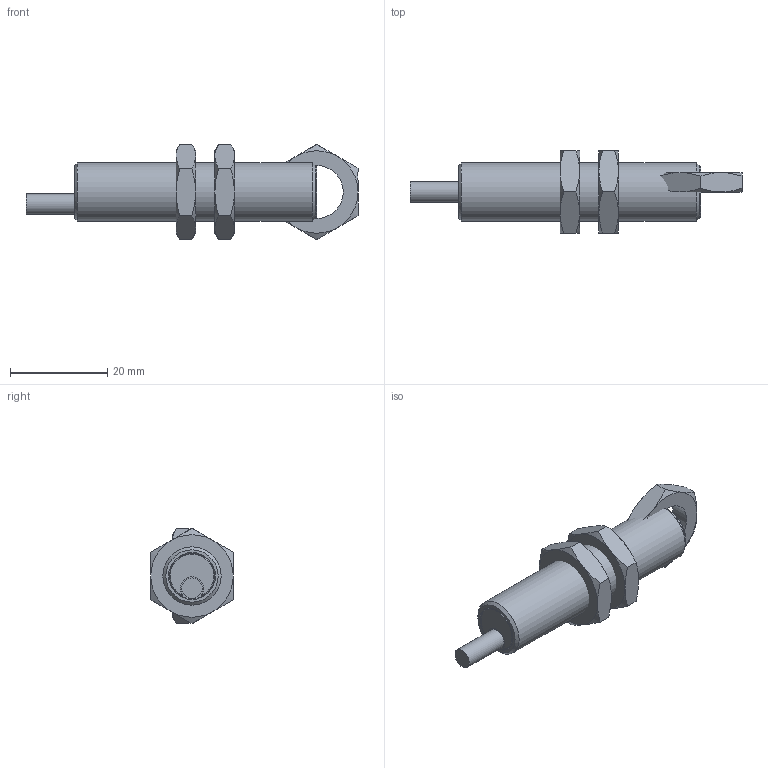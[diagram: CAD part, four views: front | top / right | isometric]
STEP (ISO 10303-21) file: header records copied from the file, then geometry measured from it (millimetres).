
FILE_DESCRIPTION( ( 'Unknown' ), '1' );
FILE_NAME( '//baumerholding.org/frauenfeld/bereich/BECH/Services/me_CAD/Solid Edge/Models/Dokumentationen/Induktiv/IxRx 12/Vereinfachte Modelle/Neutralformate/IFRM 12xx7G1_L.stp', 'Unknown', ( 'Unknown' ), ( 'Unknown' ), 'XStep 1.0', 'Unknown', ' ' );
FILE_SCHEMA( ( 'CONFIG_CONTROL_DESIGN' ) );
Length unit declared in the file: millimetre
Products named in the file (3): Assem1; 1; 2
Bounding box: 68.45 x 17 x 19.63 mm (x, y, z)
Volume: 13378.5 mm3; surface area: 6438.9 mm2
Topology: 5 solids, 7 shells, 107 faces, 226 edges, 139 vertices
Faces by surface type: cone 50, plane 46, cylinder 11
Full cylindrical faces by diameter (mm): 4.2 x2, 10 x2, 10.7 x2, 10.917 x3, 12 x2
Entity records: 1298 total; most frequent: CARTESIAN_POINT 329, DIRECTION 172, ORIENTED_EDGE 152, AXIS2_PLACEMENT_3D 79, EDGE_CURVE 76, EDGE_LOOP 60, VERTEX_POINT 52, FACE_OUTER_BOUND 48
